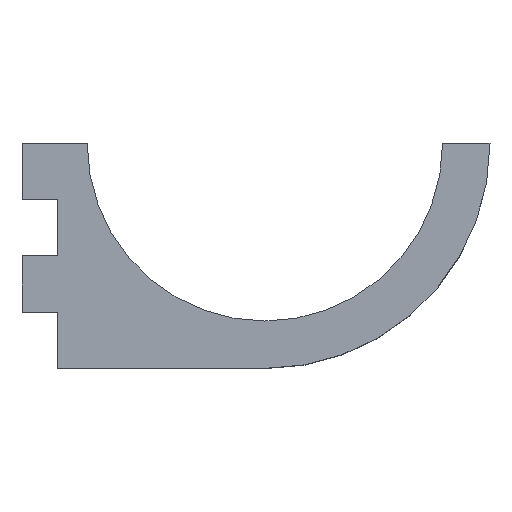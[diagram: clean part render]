
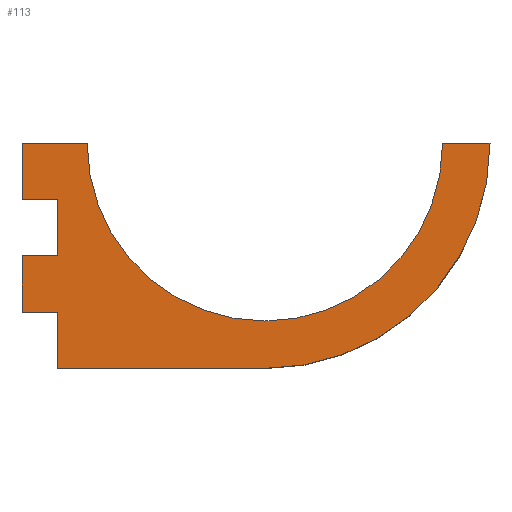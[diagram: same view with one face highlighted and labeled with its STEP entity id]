
A CAD part, top view. The second image highlights one B-rep face of the part: STEP entity #113.
In plain terms, the highlighted planar face has unit normal (0, 0, 1).
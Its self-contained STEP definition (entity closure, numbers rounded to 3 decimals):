
#11 = VERTEX_POINT ( 'NONE', #201 ) ;
#26 = CARTESIAN_POINT ( 'NONE',  ( 101.049, -39.134, 0. ) ) ;
#41 = EDGE_CURVE ( 'NONE', #588, #688, #534, .T. ) ;
#50 = DIRECTION ( 'NONE',  ( 0., 0., 1. ) ) ;
#52 = DIRECTION ( 'NONE',  ( 0., -1., 0. ) ) ;
#77 = FACE_OUTER_BOUND ( 'NONE', #565, .T. ) ;
#78 = LINE ( 'NONE', #804, #372 ) ;
#86 = VERTEX_POINT ( 'NONE', #787 ) ;
#97 = CARTESIAN_POINT ( 'NONE',  ( 95.049, -10.634, 0. ) ) ;
#99 = ORIENTED_EDGE ( 'NONE', *, *, #41, .T. ) ;
#113 = ADVANCED_FACE ( 'NONE', ( #77 ), #888, .T. ) ;
#114 = LINE ( 'NONE', #775, #325 ) ;
#126 = AXIS2_PLACEMENT_3D ( 'NONE', #324, #413, #493 ) ;
#132 = EDGE_CURVE ( 'NONE', #164, #11, #973, .T. ) ;
#136 = CARTESIAN_POINT ( 'NONE',  ( 95.049, -20.134, 0. ) ) ;
#142 = DIRECTION ( 'NONE',  ( 1., 0., 0. ) ) ;
#164 = VERTEX_POINT ( 'NONE', #1034 ) ;
#178 = LINE ( 'NONE', #97, #610 ) ;
#181 = EDGE_CURVE ( 'NONE', #664, #588, #394, .T. ) ;
#199 = ORIENTED_EDGE ( 'NONE', *, *, #602, .T. ) ;
#201 = CARTESIAN_POINT ( 'NONE',  ( 101.049, -10.634, 0. ) ) ;
#206 = VECTOR ( 'NONE', #142, 1000. ) ;
#239 = CARTESIAN_POINT ( 'NONE',  ( 95.049, -1.134, 0. ) ) ;
#272 = CARTESIAN_POINT ( 'NONE',  ( 136.049, -39.134, 0. ) ) ;
#286 = AXIS2_PLACEMENT_3D ( 'NONE', #960, #50, #402 ) ;
#311 = DIRECTION ( 'NONE',  ( 0., 0., -1. ) ) ;
#324 = CARTESIAN_POINT ( 'NONE',  ( 136.049, -1.134, 0. ) ) ;
#325 = VECTOR ( 'NONE', #435, 1000. ) ;
#331 = DIRECTION ( 'NONE',  ( 1., 0., 0. ) ) ;
#339 = CARTESIAN_POINT ( 'NONE',  ( 101.049, -29.634, 0. ) ) ;
#356 = VERTEX_POINT ( 'NONE', #705 ) ;
#359 = DIRECTION ( 'NONE',  ( 0., -1., 0. ) ) ;
#372 = VECTOR ( 'NONE', #52, 1000. ) ;
#394 = CIRCLE ( 'NONE', #126, 38. ) ;
#402 = DIRECTION ( 'NONE',  ( 1., 0., 0. ) ) ;
#413 = DIRECTION ( 'NONE',  ( 0., 0., 1. ) ) ;
#431 = ORIENTED_EDGE ( 'NONE', *, *, #492, .T. ) ;
#435 = DIRECTION ( 'NONE',  ( 0., -1., 0. ) ) ;
#456 = AXIS2_PLACEMENT_3D ( 'NONE', #738, #311, #331 ) ;
#467 = CARTESIAN_POINT ( 'NONE',  ( 101.049, -20.134, 0. ) ) ;
#492 = EDGE_CURVE ( 'NONE', #688, #916, #522, .T. ) ;
#493 = DIRECTION ( 'NONE',  ( 1., 0., 0. ) ) ;
#497 = DIRECTION ( 'NONE',  ( 0., -1., 0. ) ) ;
#503 = CARTESIAN_POINT ( 'NONE',  ( 106.049, -1.134, 0. ) ) ;
#511 = EDGE_CURVE ( 'NONE', #11, #356, #78, .T. ) ;
#514 = ORIENTED_EDGE ( 'NONE', *, *, #721, .T. ) ;
#522 = CIRCLE ( 'NONE', #456, 30. ) ;
#534 = LINE ( 'NONE', #609, #730 ) ;
#565 = EDGE_LOOP ( 'NONE', ( #992, #834, #570, #514, #199, #698, #648, #919, #863, #99, #431, #1031 ) ) ;
#570 = ORIENTED_EDGE ( 'NONE', *, *, #511, .T. ) ;
#571 = EDGE_CURVE ( 'NONE', #963, #164, #178, .T. ) ;
#585 = VECTOR ( 'NONE', #634, 1000. ) ;
#588 = VERTEX_POINT ( 'NONE', #603 ) ;
#602 = EDGE_CURVE ( 'NONE', #946, #975, #114, .T. ) ;
#603 = CARTESIAN_POINT ( 'NONE',  ( 174.049, -1.134, 0. ) ) ;
#608 = CARTESIAN_POINT ( 'NONE',  ( 166.049, -1.134, 0. ) ) ;
#609 = CARTESIAN_POINT ( 'NONE',  ( 166.049, -1.134, 0. ) ) ;
#610 = VECTOR ( 'NONE', #359, 1000. ) ;
#616 = DIRECTION ( 'NONE',  ( -1., 0., 0. ) ) ;
#619 = DIRECTION ( 'NONE',  ( -1., 0., 0. ) ) ;
#634 = DIRECTION ( 'NONE',  ( 1., 0., 0. ) ) ;
#636 = VERTEX_POINT ( 'NONE', #26 ) ;
#648 = ORIENTED_EDGE ( 'NONE', *, *, #1045, .T. ) ;
#655 = LINE ( 'NONE', #339, #1050 ) ;
#660 = CARTESIAN_POINT ( 'NONE',  ( 101.049, -29.634, 0. ) ) ;
#664 = VERTEX_POINT ( 'NONE', #272 ) ;
#688 = VERTEX_POINT ( 'NONE', #608 ) ;
#698 = ORIENTED_EDGE ( 'NONE', *, *, #1037, .T. ) ;
#703 = LINE ( 'NONE', #467, #1012 ) ;
#705 = CARTESIAN_POINT ( 'NONE',  ( 101.049, -20.134, 0. ) ) ;
#721 = EDGE_CURVE ( 'NONE', #356, #946, #703, .T. ) ;
#727 = EDGE_CURVE ( 'NONE', #916, #963, #950, .T. ) ;
#730 = VECTOR ( 'NONE', #616, 1000. ) ;
#738 = CARTESIAN_POINT ( 'NONE',  ( 136.049, -1.134, 0. ) ) ;
#765 = VECTOR ( 'NONE', #497, 1000. ) ;
#775 = CARTESIAN_POINT ( 'NONE',  ( 95.049, -29.634, 0. ) ) ;
#787 = CARTESIAN_POINT ( 'NONE',  ( 101.049, -29.634, 0. ) ) ;
#804 = CARTESIAN_POINT ( 'NONE',  ( 101.049, -10.634, 0. ) ) ;
#809 = CARTESIAN_POINT ( 'NONE',  ( 101.049, -10.634, 0. ) ) ;
#818 = LINE ( 'NONE', #1038, #206 ) ;
#834 = ORIENTED_EDGE ( 'NONE', *, *, #132, .T. ) ;
#863 = ORIENTED_EDGE ( 'NONE', *, *, #181, .T. ) ;
#888 = PLANE ( 'NONE',  #286 ) ;
#916 = VERTEX_POINT ( 'NONE', #503 ) ;
#919 = ORIENTED_EDGE ( 'NONE', *, *, #943, .T. ) ;
#943 = EDGE_CURVE ( 'NONE', #636, #664, #818, .T. ) ;
#944 = CARTESIAN_POINT ( 'NONE',  ( 95.049, -1.134, 0. ) ) ;
#946 = VERTEX_POINT ( 'NONE', #136 ) ;
#950 = LINE ( 'NONE', #944, #995 ) ;
#958 = DIRECTION ( 'NONE',  ( -1., 0., 0. ) ) ;
#960 = CARTESIAN_POINT ( 'NONE',  ( 136.049, -1.134, 0. ) ) ;
#963 = VERTEX_POINT ( 'NONE', #239 ) ;
#966 = CARTESIAN_POINT ( 'NONE',  ( 95.049, -29.634, 0. ) ) ;
#973 = LINE ( 'NONE', #809, #585 ) ;
#975 = VERTEX_POINT ( 'NONE', #966 ) ;
#977 = LINE ( 'NONE', #660, #765 ) ;
#992 = ORIENTED_EDGE ( 'NONE', *, *, #571, .T. ) ;
#995 = VECTOR ( 'NONE', #619, 1000. ) ;
#1012 = VECTOR ( 'NONE', #958, 1000. ) ;
#1031 = ORIENTED_EDGE ( 'NONE', *, *, #727, .T. ) ;
#1034 = CARTESIAN_POINT ( 'NONE',  ( 95.049, -10.634, 0. ) ) ;
#1037 = EDGE_CURVE ( 'NONE', #975, #86, #655, .T. ) ;
#1038 = CARTESIAN_POINT ( 'NONE',  ( 101.049, -39.134, 0. ) ) ;
#1043 = DIRECTION ( 'NONE',  ( 1., 0., 0. ) ) ;
#1045 = EDGE_CURVE ( 'NONE', #86, #636, #977, .T. ) ;
#1050 = VECTOR ( 'NONE', #1043, 1000. ) ;
